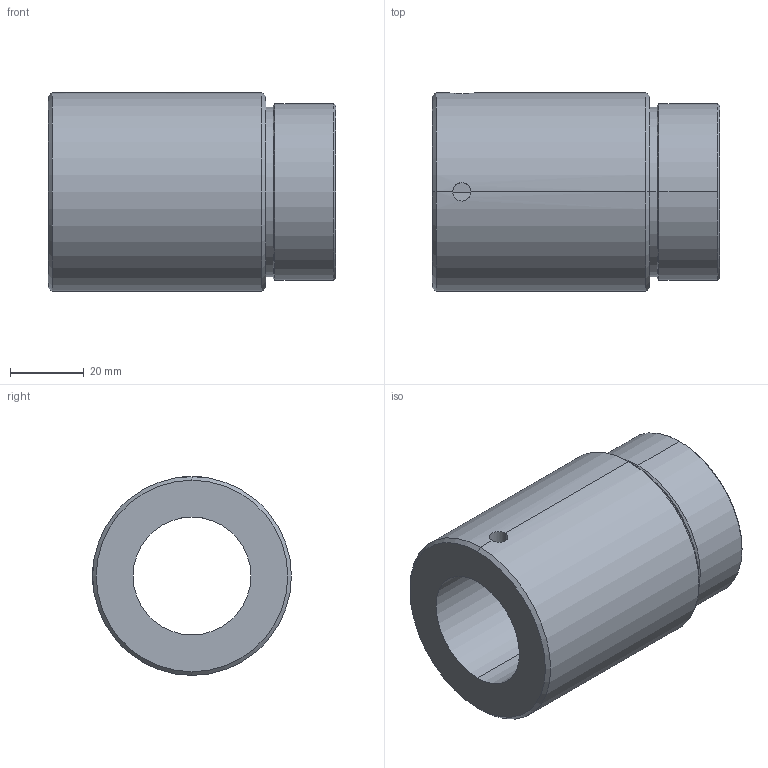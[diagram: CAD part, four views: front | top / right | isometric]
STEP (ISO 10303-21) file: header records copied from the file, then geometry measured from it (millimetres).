
FILE_DESCRIPTION (( 'STEP AP214' ), '1' );
FILE_NAME ('KGM-E-2005-RH.STEP', '2021-03-19T01:19:36', ( 'user' ), ( 'datathink' ), 'SwSTEP 2.0', 'SolidWorks 2013', '' );
FILE_SCHEMA (( 'AUTOMOTIVE_DESIGN' ));
Length unit declared in the file: millimetre
Products named in the file (1): KGM-E-2005-RH
Bounding box: 78 x 54 x 54 mm (x, y, z)
Volume: 105869.4 mm3; surface area: 23894 mm2
Topology: 1 solids, 1 shells, 26 faces, 58 edges, 33 vertices
Faces by surface type: cylinder 12, cone 10, plane 4
Entity records: 946 total; most frequent: CARTESIAN_POINT 308, DIRECTION 130, ORIENTED_EDGE 112, EDGE_CURVE 56, AXIS2_PLACEMENT_3D 53, VERTEX_POINT 33, EDGE_LOOP 31, ADVANCED_FACE 26
